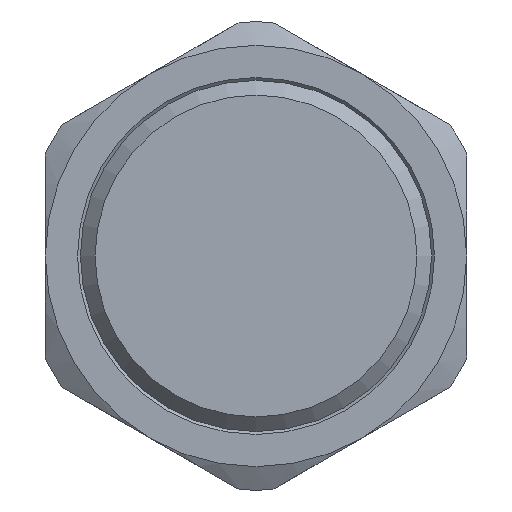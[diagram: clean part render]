
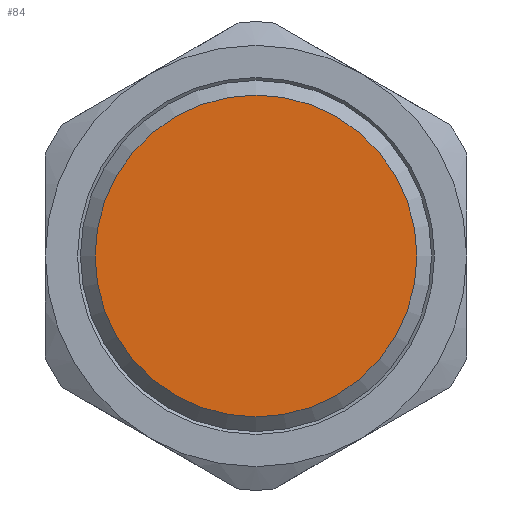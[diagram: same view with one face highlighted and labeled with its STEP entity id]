
A CAD part, front view. The second image highlights one B-rep face of the part: STEP entity #84.
In plain terms, the highlighted planar face has unit normal (0, -1, 0).
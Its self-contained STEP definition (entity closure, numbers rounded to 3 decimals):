
#68=CARTESIAN_POINT('',(0.,-58.617,0.));
#69=DIRECTION('',(0.0,1.0,0.0));
#70=DIRECTION('',(0.0,0.0,1.0));
#71=AXIS2_PLACEMENT_3D('',#68,#69,#70);
#72=PLANE('',#71);
#73=CARTESIAN_POINT('',(13.75,-58.617,0.));
#74=VERTEX_POINT('',#73);
#75=CARTESIAN_POINT('',(0.,-58.617,0.));
#76=DIRECTION('',(0.0,1.0,0.0));
#77=DIRECTION('',(-1.0,0.0,0.0));
#78=AXIS2_PLACEMENT_3D('',#75,#76,#77);
#79=CIRCLE('',#78,13.75);
#80=EDGE_CURVE('',#74,#74,#79,.T.);
#81=ORIENTED_EDGE('',*,*,#80,.F.);
#82=EDGE_LOOP('',(#81));
#83=FACE_OUTER_BOUND('',#82,.T.);
#84=ADVANCED_FACE('',(#83),#72,.F.);
